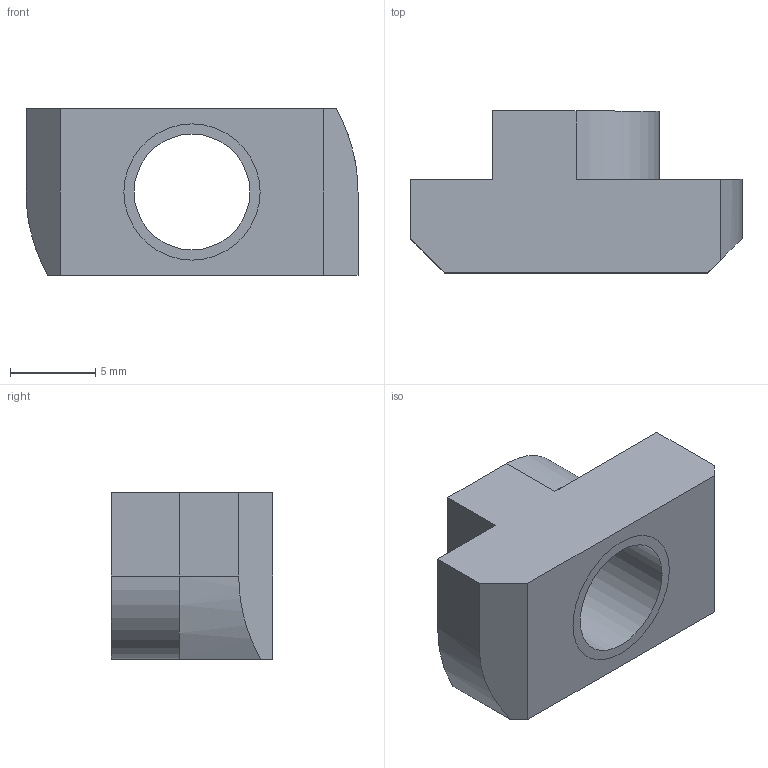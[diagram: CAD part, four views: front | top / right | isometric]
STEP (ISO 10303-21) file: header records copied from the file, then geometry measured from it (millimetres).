
FILE_DESCRIPTION((''),'2;1');
FILE_NAME('DAM0810','2002-12-27T',('Lipro doo'),('Lipro d.o.o.'),'PRO/ENGINEER BY PARAMETRIC TECHNOLOGY CORPORATION, 2001150','PRO/ENGINEER BY PARAMETRIC TECHNOLOGY CORPORATION, 2001150','');
FILE_SCHEMA(('CONFIG_CONTROL_DESIGN'));
Length unit declared in the file: millimetre
Products named in the file (1): DAM0810
Bounding box: 19.5 x 9.5 x 9.8 mm (x, y, z)
Volume: 985.6 mm3; surface area: 1152.1 mm2
Topology: 1 solids, 2 shells, 22 faces, 58 edges, 38 vertices
Faces by surface type: plane 12, cylinder 8, cone 2
Entity records: 734 total; most frequent: CARTESIAN_POINT 127, DIRECTION 118, ORIENTED_EDGE 112, EDGE_CURVE 58, VECTOR 40, LINE 40, AXIS2_PLACEMENT_3D 39, VERTEX_POINT 38
